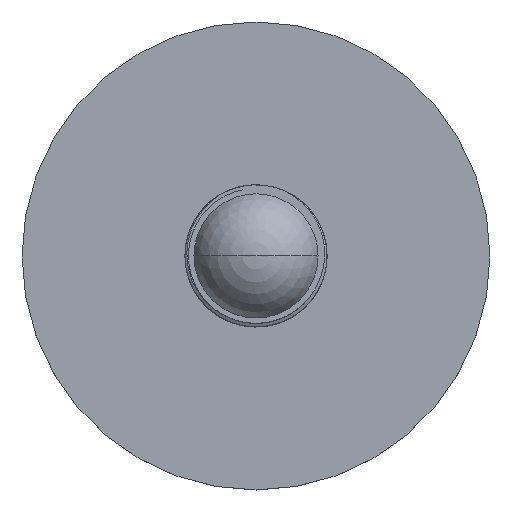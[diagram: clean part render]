
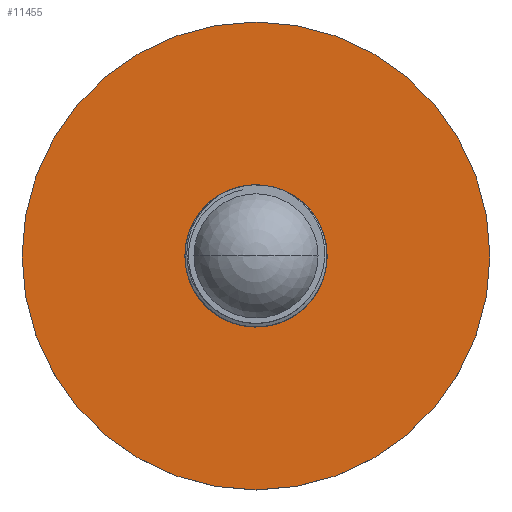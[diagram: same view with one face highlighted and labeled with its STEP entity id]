
A CAD part, top view. The second image highlights one B-rep face of the part: STEP entity #11455.
In plain terms, the highlighted planar face has unit normal (0, 0, 1) as drawn and (0, -1, 0) by its records, which use the part's own axes.
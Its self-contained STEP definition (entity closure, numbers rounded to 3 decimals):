
#11340=CARTESIAN_POINT('',(0.,-74.639,0.));
#11341=DIRECTION('',(0.,-1.,0.));
#11342=DIRECTION('',(0.,0.,-1.));
#11343=AXIS2_PLACEMENT_3D('',#11340,#11341,#11342);
#11349=CARTESIAN_POINT('',(0.,-74.639,0.));
#11350=DIRECTION('',(0.,1.,0.));
#11351=DIRECTION('',(0.,0.,-1.));
#11352=AXIS2_PLACEMENT_3D('',#11349,#11350,#11351);
#11420=CARTESIAN_POINT('',(0.,-74.639,-79.008));
#11422=VERTEX_POINT('',#11420);
#11432=CARTESIAN_POINT('',(0.,-74.639,
79.008));
#11434=VERTEX_POINT('',#11432);
#11444=CARTESIAN_POINT('',(0.,-74.639,0.));
#11445=DIRECTION('',(0.,1.,0.));
#11446=DIRECTION('',(0.,0.,-1.));
#11447=AXIS2_PLACEMENT_3D('',#11444,#11445,#11446);
#11448=PLANE('',#11447);
#11450=ORIENTED_EDGE('',*,*,#11449,.F.);
#11452=ORIENTED_EDGE('',*,*,#11451,.T.);
#11453=EDGE_LOOP('',(#11450,#11452));
#11454=FACE_OUTER_BOUND('',#11453,.F.);
#11455=ADVANCED_FACE('',(#11454),#11448,.F.);
#11344=CIRCLE('',#11343,79.008);
#11353=CIRCLE('',#11352,79.008);
#11449=EDGE_CURVE('',#11422,#11434,#11344,.T.);
#11451=EDGE_CURVE('',#11422,#11434,#11353,.T.);
